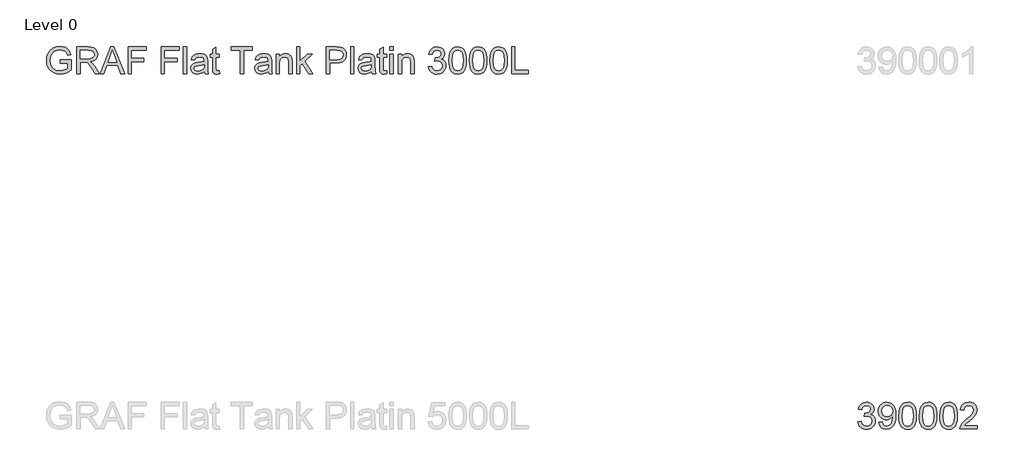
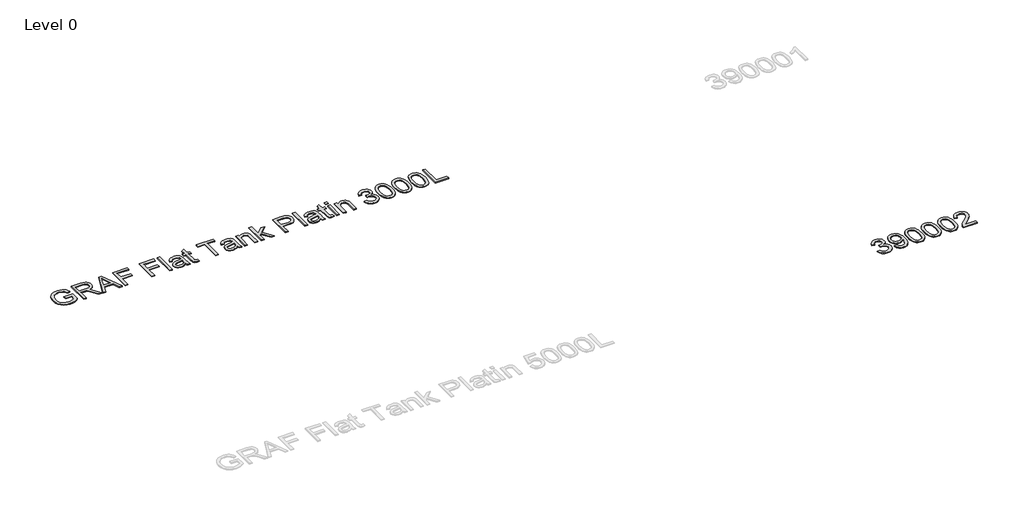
# One storey, part 11 of 14: 2 proxies.
"""IFC4 building model written with IfcOpenShell, lengths in millimetres."""

from ifc_helpers import new_model, si_unit, origin, origin_with_axes, place, context, project, spatial, polyline, outline, extrude, element, save

model = new_model("IFC4")

# Units and contexts
model_context = context("Model", 3, world=origin())
ifc_project = project(units=[si_unit("LENGTHUNIT", "METRE", prefix="MILLI")], contexts=[model_context])

# Site, building, storey
site = spatial("IfcSite", under=ifc_project)
building = spatial("IfcBuilding", under=site)
storey = spatial("IfcBuildingStorey", under=building, Name="Level 0", Elevation=0.0)

# Proxies
placement = place(None, origin())
element("IfcBuildingElementProxy", 1, Name="300mm Arial", ObjectType="300mm Arial", at=placement, inside=storey, context=model_context, shape_type="SweptSolid", body=[
    extrude(outline(polyline([(-15240.9940387, 5416.7454403), (-15240.9940387, 5454.4165566), (-15118.5629107, 5454.4165566), (-15118.5629107, 5341.7710897), (-15148.3153671, 5321.0777274), (-15179.0059225, 5306.2336889), (-15210.5610007, 5297.2941564), (-15242.9070251, 5294.3143123), (-15285.1674693, 5299.050793), (-15323.3628175, 5313.260235), (-15355.0926395, 5336.4459978), (-15377.9565055, 5368.1114405), (-15391.7796715, 5406.0952565), (-15396.3873935, 5448.2361391), (-15391.7980656, 5490.6805243), (-15378.0300819, 5530.1634594), (-15355.6536596, 5563.282036), (-15325.2390156, 5586.6333457), (-15288.1932987, 5600.4841028), (-15245.9236575, 5605.1010218), (-15214.8928112, 5602.4246803), (-15186.9889618, 5594.3956557), (-15163.4904994, 5581.5933623), (-15145.6758138, 5564.5972141), (-15132.4964413, 5542.5886738), (-15122.9039183, 5514.7492038), (-15157.6319786, 5504.9635427), (-15165.3850917, 5524.8199734), (-15174.8120678, 5539.8019677), (-15187.2832674, 5551.0959449), (-15204.169051, 5559.8883246), (-15224.3013932, 5565.5445103), (-15246.5122687, 5567.4299055), (-15272.5123287, 5565.3973575), (-15294.7415982, 5559.2997134), (-15313.1173039, 5549.9003284), (-15327.5566722, 5537.9625577), (-15346.9440533, 5508.9366683), (-15355.7732212, 5480.49939), (-15358.7162772, 5449.7812434), (-15355.175413, 5413.7563991), (-15344.5528204, 5384.1143073), (-15327.1703961, 5361.0665003), (-15303.3500369, 5344.8245102), (-15275.4737787, 5335.195199), (-15245.9236575, 5331.9854286), (-15219.831627, 5334.4042527), (-15194.3833899, 5341.6607251), (-15172.2828791, 5351.6579183), (-15156.234027, 5362.298905), (-15156.234027, 5416.7454403), (-15240.9940387, 5416.7454403)])), origin_with_axes(), (0.0, 0.0, 1.0), 10.0),
    extrude(outline(polyline([(-15057.3473467, 5299.0232018), (-15057.3473467, 5600.3921323), (-14927.4850024, 5600.3921323), (-14892.5821982, 5598.3595842), (-14867.1891434, 5592.2619402), (-14848.6294968, 5581.0047511), (-14834.2269167, 5563.4935682), (-14824.9838815, 5541.7793334), (-14821.9028698, 5517.912989), (-14827.0072325, 5488.2249119), (-14842.3203206, 5463.6136065), (-14853.9200997, 5453.5842236), (-14868.3019865, 5445.5689946), (-14905.4120827, 5435.5809984), (-14884.0013506, 5419.467767), (-14853.467145, 5380.6930048), (-14803.2144645, 5299.0232018), (-14846.9924219, 5299.0232018), (-14886.2086426, 5361.4895646), (-14914.5355562, 5402.8395009), (-14934.4379722, 5422.3740348), (-14952.3538253, 5429.5477337), (-14974.2060158, 5430.8721089), (-15019.6762304, 5430.8721089), (-15019.6762304, 5299.0232018), (-15057.3473467, 5299.0232018)]), holes=[polyline([(-15019.6762304, 5468.5432252), (-14935.3576771, 5468.5432252), (-14911.1418448, 5469.8767974), (-14892.3522719, 5473.8775141), (-14878.2072092, 5480.8120897), (-14867.9249074, 5490.9472387), (-14861.6617165, 5503.2069062), (-14859.5739861, 5516.5150374), (-14863.5563087, 5534.890743), (-14875.5032765, 5549.6979933), (-14896.058683, 5559.4652603), (-14925.8663217, 5562.721016), (-15019.6762304, 5562.721016), (-15019.6762304, 5468.5432252)])]), origin_with_axes(), (0.0, 0.0, 1.0), 10.0),
    extrude(outline(polyline([(-14791.0743586, 5299.0232018), (-14670.7769462, 5600.3921323), (-14638.6976362, 5600.3921323), (-14518.4002238, 5299.0232018), (-14558.2050557, 5299.0232018), (-14592.7123868, 5393.2009926), (-14716.835772, 5393.2009926), (-14751.2695268, 5299.0232018), (-14791.0743586, 5299.0232018)]), holes=[polyline([(-14703.003409, 5430.8721089), (-14606.4711735, 5430.8721089), (-14633.6208647, 5504.9635427), (-14654.7372912, 5562.721016), (-14673.499273, 5511.4382658), (-14703.003409, 5430.8721089)])]), origin_with_axes(), (0.0, 0.0, 1.0), 10.0),
    extrude(outline(polyline([(-14478.1539335, 5299.0232018), (-14478.1539335, 5600.3921323), (-14275.6716834, 5600.3921323), (-14275.6716834, 5562.721016), (-14440.4828172, 5562.721016), (-14440.4828172, 5473.2521147), (-14299.2161311, 5473.2521147), (-14299.2161311, 5435.5809984), (-14440.4828172, 5435.5809984), (-14440.4828172, 5299.0232018), (-14478.1539335, 5299.0232018)])), origin_with_axes(), (0.0, 0.0, 1.0), 10.0),
    extrude(outline(polyline([(-14106.15166, 5299.0232018), (-14106.15166, 5600.3921323), (-13903.6694099, 5600.3921323), (-13903.6694099, 5562.721016), (-14068.4805437, 5562.721016), (-14068.4805437, 5473.2521147), (-13927.2138576, 5473.2521147), (-13927.2138576, 5435.5809984), (-14068.4805437, 5435.5809984), (-14068.4805437, 5299.0232018), (-14106.15166, 5299.0232018)])), origin_with_axes(), (0.0, 0.0, 1.0), 10.0),
    extrude(outline(polyline([(-13856.5805145, 5299.0232018), (-13856.5805145, 5600.3921323), (-13818.9093982, 5600.3921323), (-13818.9093982, 5299.0232018), (-13856.5805145, 5299.0232018)])), origin_with_axes(), (0.0, 0.0, 1.0), 10.0),
    extrude(outline(polyline([(-13621.1360376, 5327.2765391), (-13639.1346642, 5311.8438894), (-13657.6667197, 5301.7455286), (-13677.1552684, 5296.1721164), (-13698.0233746, 5294.3143123), (-13729.5048763, 5298.7840785), (-13752.7274272, 5312.1933772), (-13767.0472339, 5332.5556457), (-13771.8205028, 5357.8843211), (-13770.017881, 5373.5009117), (-13764.6100157, 5387.6827627), (-13756.2682915, 5399.8228685), (-13745.6640929, 5409.314224), (-13719.2869539, 5421.675059), (-13686.6926091, 5427.3404417), (-13648.1753642, 5433.3001301), (-13621.3567668, 5440.289888), (-13621.1360376, 5448.6775975), (-13623.7296056, 5465.4898046), (-13631.5103098, 5476.4894763), (-13648.9111282, 5484.6564566), (-13673.1545517, 5487.3787834), (-13695.5953534, 5485.5669645), (-13711.2671264, 5480.131508), (-13721.9540984, 5470.0791325), (-13729.440497, 5454.4165566), (-13767.1116133, 5459.1254461), (-13760.5725108, 5479.7268379), (-13750.8144409, 5495.9136456), (-13736.9268956, 5508.2928748), (-13717.9993669, 5517.4715306), (-13694.8503924, 5523.1553074), (-13668.2985094, 5525.0498997), (-13642.8318782, 5523.3760366), (-13622.6443538, 5518.3544473), (-13607.4232362, 5510.8036694), (-13596.8558259, 5501.5422402), (-13589.8476739, 5490.0919131), (-13585.3043312, 5475.9744415), (-13583.4649213, 5443.0122147), (-13583.4649213, 5396.1440485), (-13581.5519349, 5330.6978416), (-13574.0471422, 5299.0232018), (-13611.7182585, 5299.0232018), (-13621.1360376, 5327.2765391)]), holes=[polyline([(-13621.1360376, 5402.6187717), (-13681.9101432, 5391.067277), (-13714.320547, 5384.9604359), (-13728.9990386, 5375.027622), (-13734.1493865, 5360.5330714), (-13731.3442863, 5349.3310647), (-13722.9289856, 5340.1524089), (-13709.0874256, 5334.0271737), (-13690.0035471, 5331.9854286), (-13669.7700373, 5334.2387058), (-13651.8909724, 5340.9985375), (-13637.3964218, 5350.9589425), (-13627.3164551, 5362.8139398), (-13622.8466889, 5375.027622), (-13621.3567668, 5391.9501938), (-13621.1360376, 5402.6187717)])]), origin_with_axes(), (0.0, 0.0, 1.0), 10.0),
    extrude(outline(polyline([(-13451.6160142, 5330.4403242), (-13446.9071247, 5297.9195558), (-13475.0868855, 5294.3143123), (-13493.1682856, 5295.8778108), (-13506.6511607, 5300.5683062), (-13516.1793043, 5307.7971874), (-13522.3965101, 5316.9758432), (-13525.8178126, 5332.7395867), (-13526.9582468, 5359.723731), (-13526.9582468, 5482.6698938), (-13555.211584, 5482.6698938), (-13555.211584, 5520.3410101), (-13526.9582468, 5520.3410101), (-13526.9582468, 5574.1253578), (-13489.2871305, 5596.2718539), (-13489.2871305, 5520.3410101), (-13451.6160142, 5520.3410101), (-13451.6160142, 5482.6698938), (-13489.2871305, 5482.6698938), (-13489.2871305, 5360.827377), (-13487.3005677, 5341.4032077), (-13480.8626328, 5334.5238144), (-13468.0235512, 5331.9854286), (-13451.6160142, 5330.4403242)])), origin_with_axes(), (0.0, 0.0, 1.0), 10.0),
    extrude(outline(polyline([(-13216.1715373, 5299.0232018), (-13216.1715373, 5562.721016), (-13315.0582176, 5562.721016), (-13315.0582176, 5600.3921323), (-13079.6137407, 5600.3921323), (-13079.6137407, 5562.721016), (-13178.500421, 5562.721016), (-13178.500421, 5299.0232018), (-13216.1715373, 5299.0232018)])), origin_with_axes(), (0.0, 0.0, 1.0), 10.0),
    extrude(outline(polyline([(-12900.6759382, 5327.2765391), (-12918.6745648, 5311.8438894), (-12937.2066203, 5301.7455286), (-12956.695169, 5296.1721164), (-12977.5632752, 5294.3143123), (-13009.0447769, 5298.7840785), (-13032.2673279, 5312.1933772), (-13046.5871346, 5332.5556457), (-13051.3604034, 5357.8843211), (-13049.5577817, 5373.5009117), (-13044.1499163, 5387.6827627), (-13035.8081921, 5399.8228685), (-13025.2039936, 5409.314224), (-12998.8268545, 5421.675059), (-12966.2325098, 5427.3404417), (-12927.7152649, 5433.3001301), (-12900.8966674, 5440.289888), (-12900.6759382, 5448.6775975), (-12903.2695063, 5465.4898046), (-12911.0502105, 5476.4894763), (-12928.4510289, 5484.6564566), (-12952.6944523, 5487.3787834), (-12975.135254, 5485.5669645), (-12990.807027, 5480.131508), (-13001.493999, 5470.0791325), (-13008.9803976, 5454.4165566), (-13046.6515139, 5459.1254461), (-13040.1124114, 5479.7268379), (-13030.3543415, 5495.9136456), (-13016.4667962, 5508.2928748), (-12997.5392675, 5517.4715306), (-12974.390293, 5523.1553074), (-12947.83841, 5525.0498997), (-12922.3717789, 5523.3760366), (-12902.1842544, 5518.3544473), (-12886.9631368, 5510.8036694), (-12876.3957265, 5501.5422402), (-12869.3875745, 5490.0919131), (-12864.8442319, 5475.9744415), (-12863.0048219, 5443.0122147), (-12863.0048219, 5396.1440485), (-12861.0918355, 5330.6978416), (-12853.5870428, 5299.0232018), (-12891.2581591, 5299.0232018), (-12900.6759382, 5327.2765391)]), holes=[polyline([(-12900.6759382, 5402.6187717), (-12961.4500438, 5391.067277), (-12993.8604476, 5384.9604359), (-13008.5389392, 5375.027622), (-13013.6892871, 5360.5330714), (-13010.8841869, 5349.3310647), (-13002.4688863, 5340.1524089), (-12988.6273262, 5334.0271737), (-12969.5434477, 5331.9854286), (-12949.309938, 5334.2387058), (-12931.430873, 5340.9985375), (-12916.9363224, 5350.9589425), (-12906.8563557, 5362.8139398), (-12902.3865895, 5375.027622), (-12900.8966674, 5391.9501938), (-12900.6759382, 5402.6187717)])]), origin_with_axes(), (0.0, 0.0, 1.0), 10.0),
    extrude(outline(polyline([(-12811.207037, 5299.0232018), (-12811.207037, 5520.3410101), (-12773.5359207, 5520.3410101), (-12773.5359207, 5489.4389225), (-12760.4485187, 5505.018725), (-12744.7307605, 5516.1471554), (-12726.382646, 5522.8242136), (-12705.4041752, 5525.0498997), (-12686.8353315, 5523.2564749), (-12669.8299862, 5517.8762008), (-12655.6481353, 5509.5804618), (-12645.5497746, 5499.0406426), (-12634.2557973, 5471.3391284), (-12632.2692345, 5434.9188108), (-12632.2692345, 5299.0232018), (-12669.9403508, 5299.0232018), (-12669.9403508, 5429.8420393), (-12674.2813584, 5463.1721481), (-12680.287032, 5473.0957649), (-12689.6220376, 5480.7936956), (-12701.5873995, 5485.7325114), (-12715.4841418, 5487.3787834), (-12737.5478645, 5483.6815693), (-12756.3558315, 5472.5899271), (-12763.8721205, 5463.5354315), (-12769.2408984, 5451.1608009), (-12773.5359207, 5416.4511347), (-12773.5359207, 5299.0232018), (-12811.207037, 5299.0232018)])), origin_with_axes(), (0.0, 0.0, 1.0), 10.0),
    extrude(outline(polyline([(-12580.4714496, 5299.0232018), (-12580.4714496, 5600.3921323), (-12542.8003333, 5600.3921323), (-12542.8003333, 5438.450478), (-12458.3346272, 5520.3410101), (-12406.2425367, 5520.3410101), (-12491.7383124, 5437.4204084), (-12401.5336472, 5299.0232018), (-12445.5323338, 5299.0232018), (-12518.7408508, 5411.2272104), (-12542.8003333, 5387.9034919), (-12542.8003333, 5299.0232018), (-12580.4714496, 5299.0232018)])), origin_with_axes(), (0.0, 0.0, 1.0), 10.0),
    extrude(outline(polyline([(-12246.1402924, 5299.0232018), (-12246.1402924, 5600.3921323), (-12134.4513187, 5600.3921323), (-12089.4225625, 5597.5226527), (-12069.3454026, 5592.1607726), (-12052.8183039, 5583.4327723), (-12039.5101728, 5570.9431786), (-12029.0899152, 5554.2965183), (-12022.3576747, 5534.6608168), (-12020.1135946, 5513.2040994), (-12021.6288085, 5494.7042336), (-12026.1744504, 5477.6850928), (-12033.7505203, 5462.146677), (-12044.357018, 5448.0889863), (-12058.9182473, 5436.4363241), (-12078.3585115, 5428.1129939), (-12102.6778106, 5423.1189958), (-12131.8761447, 5421.4543298), (-12208.4691761, 5421.4543298), (-12208.4691761, 5299.0232018), (-12246.1402924, 5299.0232018)]), holes=[polyline([(-12208.4691761, 5459.1254461), (-12129.6688527, 5459.1254461), (-12096.2651676, 5462.5835369), (-12074.1922479, 5472.9578091), (-12061.8865951, 5489.6044694), (-12057.7847109, 5511.8797242), (-12060.203535, 5528.802296), (-12067.4600073, 5543.0761174), (-12078.652817, 5553.8182717), (-12092.8806532, 5560.145842), (-12130.5517695, 5562.721016), (-12208.4691761, 5562.721016), (-12208.4691761, 5459.1254461)])]), origin_with_axes(), (0.0, 0.0, 1.0), 10.0),
    extrude(outline(polyline([(-11973.0246992, 5299.0232018), (-11973.0246992, 5600.3921323), (-11935.3535829, 5600.3921323), (-11935.3535829, 5299.0232018), (-11973.0246992, 5299.0232018)])), origin_with_axes(), (0.0, 0.0, 1.0), 10.0),
    extrude(outline(polyline([(-11737.5802223, 5327.2765391), (-11755.5788489, 5311.8438894), (-11774.1109044, 5301.7455286), (-11793.5994531, 5296.1721164), (-11814.4675593, 5294.3143123), (-11845.949061, 5298.7840785), (-11869.1716119, 5312.1933772), (-11883.4914186, 5332.5556457), (-11888.2646875, 5357.8843211), (-11886.4620657, 5373.5009117), (-11881.0542004, 5387.6827627), (-11872.7124761, 5399.8228685), (-11862.1082776, 5409.314224), (-11835.7311386, 5421.675059), (-11803.1367938, 5427.3404417), (-11764.6195489, 5433.3001301), (-11737.8009515, 5440.289888), (-11737.5802223, 5448.6775975), (-11740.1737903, 5465.4898046), (-11747.9544945, 5476.4894763), (-11765.3553129, 5484.6564566), (-11789.5987364, 5487.3787834), (-11812.0395381, 5485.5669645), (-11827.7113111, 5480.131508), (-11838.398283, 5470.0791325), (-11845.8846816, 5454.4165566), (-11883.555798, 5459.1254461), (-11877.0166955, 5479.7268379), (-11867.2586256, 5495.9136456), (-11853.3710803, 5508.2928748), (-11834.4435516, 5517.4715306), (-11811.2945771, 5523.1553074), (-11784.742694, 5525.0498997), (-11759.2760629, 5523.3760366), (-11739.0885384, 5518.3544473), (-11723.8674209, 5510.8036694), (-11713.3000106, 5501.5422402), (-11706.2918586, 5490.0919131), (-11701.7485159, 5475.9744415), (-11699.909106, 5443.0122147), (-11699.909106, 5396.1440485), (-11697.9961196, 5330.6978416), (-11690.4913269, 5299.0232018), (-11728.1624432, 5299.0232018), (-11737.5802223, 5327.2765391)]), holes=[polyline([(-11737.5802223, 5402.6187717), (-11798.3543279, 5391.067277), (-11830.7647316, 5384.9604359), (-11845.4432233, 5375.027622), (-11850.5935712, 5360.5330714), (-11847.788471, 5349.3310647), (-11839.3731703, 5340.1524089), (-11825.5316103, 5334.0271737), (-11806.4477318, 5331.9854286), (-11786.214222, 5334.2387058), (-11768.3351571, 5340.9985375), (-11753.8406065, 5350.9589425), (-11743.7606398, 5362.8139398), (-11739.2908735, 5375.027622), (-11737.8009515, 5391.9501938), (-11737.5802223, 5402.6187717)])]), origin_with_axes(), (0.0, 0.0, 1.0), 10.0),
    extrude(outline(polyline([(-11568.0601989, 5330.4403242), (-11563.3513094, 5297.9195558), (-11591.5310702, 5294.3143123), (-11609.6124702, 5295.8778108), (-11623.0953454, 5300.5683062), (-11632.623489, 5307.7971874), (-11638.8406948, 5316.9758432), (-11642.2619973, 5332.7395867), (-11643.4024315, 5359.723731), (-11643.4024315, 5482.6698938), (-11671.6557687, 5482.6698938), (-11671.6557687, 5520.3410101), (-11643.4024315, 5520.3410101), (-11643.4024315, 5574.1253578), (-11605.7313152, 5596.2718539), (-11605.7313152, 5520.3410101), (-11568.0601989, 5520.3410101), (-11568.0601989, 5482.6698938), (-11605.7313152, 5482.6698938), (-11605.7313152, 5360.827377), (-11603.7447524, 5341.4032077), (-11597.3068175, 5334.5238144), (-11584.4677359, 5331.9854286), (-11568.0601989, 5330.4403242)])), origin_with_axes(), (0.0, 0.0, 1.0), 10.0),
    extrude(outline(polyline([(-11530.3890826, 5562.721016), (-11530.3890826, 5600.3921323), (-11492.7179663, 5600.3921323), (-11492.7179663, 5562.721016), (-11530.3890826, 5562.721016)])), origin_with_axes(), (0.0, 0.0, 1.0), 10.0),
    extrude(outline(polyline([(-11530.3890826, 5299.0232018), (-11530.3890826, 5520.3410101), (-11492.7179663, 5520.3410101), (-11492.7179663, 5299.0232018), (-11530.3890826, 5299.0232018)])), origin_with_axes(), (0.0, 0.0, 1.0), 10.0),
    extrude(outline(polyline([(-11436.2112918, 5299.0232018), (-11436.2112918, 5520.3410101), (-11398.5401755, 5520.3410101), (-11398.5401755, 5489.4389225), (-11385.4527735, 5505.018725), (-11369.7350153, 5516.1471554), (-11351.3869008, 5522.8242136), (-11330.40843, 5525.0498997), (-11311.8395863, 5523.2564749), (-11294.8342411, 5517.8762008), (-11280.6523902, 5509.5804618), (-11270.5540294, 5499.0406426), (-11259.2600521, 5471.3391284), (-11257.2734894, 5434.9188108), (-11257.2734894, 5299.0232018), (-11294.9446057, 5299.0232018), (-11294.9446057, 5429.8420393), (-11299.2856132, 5463.1721481), (-11305.2912868, 5473.0957649), (-11314.6262924, 5480.7936956), (-11326.5916543, 5485.7325114), (-11340.4883967, 5487.3787834), (-11362.5521193, 5483.6815693), (-11381.3600863, 5472.5899271), (-11388.8763754, 5463.5354315), (-11394.2451532, 5451.1608009), (-11398.5401755, 5416.4511347), (-11398.5401755, 5299.0232018), (-11436.2112918, 5299.0232018)])), origin_with_axes(), (0.0, 0.0, 1.0), 10.0),
    extrude(outline(polyline([(-11097.1712451, 5379.074324), (-11059.5001288, 5383.7832135), (-11051.066434, 5360.1100071), (-11038.714796, 5344.1255344), (-11021.8382095, 5335.020455), (-10999.8296691, 5331.9854286), (-10974.0043531, 5336.1608892), (-10954.0651489, 5348.6872712), (-10941.3180378, 5367.3756765), (-10937.0690008, 5390.0372074), (-10941.2812496, 5411.5491071), (-10953.9179961, 5428.9959107), (-10973.0478599, 5440.5566024), (-10996.7394604, 5444.4101663), (-11023.1533876, 5440.289888), (-11018.9595329, 5477.9610043), (-11012.9262682, 5477.5195459), (-10990.3567078, 5480.2234785), (-10970.1783803, 5488.3352765), (-10955.9413471, 5502.057275), (-10951.1956694, 5521.5918089), (-10954.635366, 5537.8613901), (-10964.954456, 5551.0591567), (-10980.6998054, 5559.8055512), (-11000.4182803, 5562.721016), (-11020.1735435, 5559.77796), (-11036.3235631, 5550.9487921), (-11048.114181, 5536.2335123), (-11054.7912392, 5515.6321206), (-11092.4623555, 5520.3410101), (-11081.3707134, 5554.1677596), (-11061.6338443, 5579.4228585), (-11034.6313059, 5595.1498138), (-11001.7426555, 5600.3921323), (-10978.0602521, 5597.8077613), (-10956.3092291, 5590.0546482), (-10937.9703117, 5577.8225719), (-10924.5242247, 5561.801311), (-10916.274471, 5543.3428319), (-10913.5245531, 5523.7991009), (-10916.1365152, 5505.5889421), (-10923.9724017, 5489.0710405), (-10936.921848, 5474.9995542), (-10954.8744893, 5464.1286413), (-10931.2932534, 5454.6004976), (-10913.8188587, 5438.3769016), (-10903.003128, 5416.3407701), (-10899.3978845, 5389.3750198), (-10901.2005062, 5370.2635502), (-10906.6083716, 5352.6603967), (-10915.6214804, 5336.5655594), (-10928.2398329, 5321.9790383), (-10943.6127018, 5309.8757207), (-10960.88936, 5301.2304938), (-10980.0698075, 5296.0433577), (-11001.1540443, 5294.3143123), (-11020.2103317, 5295.7904388), (-11037.5743618, 5300.2188183), (-11053.2461348, 5307.5994508), (-11067.2256507, 5317.9323364), (-11078.9472907, 5330.6104696), (-11087.8454365, 5345.0268453), (-11093.9200879, 5361.1814634), (-11097.1712451, 5379.074324)])), origin_with_axes(), (0.0, 0.0, 1.0), 10.0),
    extrude(outline(polyline([(-10866.4356577, 5447.2796459), (-10863.6673457, 5495.5181725), (-10855.3624096, 5533.9894321), (-10841.603623, 5563.282036), (-10822.4737593, 5583.9845953), (-10797.8348626, 5596.290248), (-10767.5489774, 5600.3921323), (-10744.3356235, 5597.9641111), (-10723.5502908, 5590.6800476), (-10706.1678665, 5578.8250503), (-10693.163238, 5562.6842278), (-10683.3407887, 5542.3955357), (-10675.5049022, 5518.0969299), (-10670.3729484, 5487.2408276), (-10668.6622971, 5447.2796459), (-10671.4030179, 5399.3170308), (-10679.6251805, 5360.9377416), (-10693.3011937, 5331.6175466), (-10712.4034663, 5310.8322139), (-10737.0975452, 5298.4437877), (-10767.5489774, 5294.3143123), (-10788.2975219, 5296.107737), (-10806.6916217, 5301.4880112), (-10822.7312767, 5310.4551348), (-10836.4164869, 5323.0091079), (-10849.5498741, 5345.7028285), (-10858.930865, 5373.9791583), (-10864.5594595, 5407.8380975), (-10866.4356577, 5447.2796459)]), holes=[polyline([(-10828.7645414, 5447.3532223), (-10824.3499574, 5388.0966299), (-10818.8317275, 5367.8286312), (-10811.1062056, 5353.8008309), (-10791.3877307, 5337.4392792), (-10767.5489774, 5331.9854286), (-10743.7102241, 5337.4576733), (-10723.9917492, 5353.8744073), (-10716.2662273, 5367.9252003), (-10710.7479973, 5388.1886004), (-10706.3334134, 5447.3532223), (-10710.6008445, 5505.2762424), (-10715.9351335, 5525.4775625), (-10723.403138, 5539.8387559), (-10743.0848247, 5557.0004509), (-10767.9904358, 5562.721016), (-10791.5716717, 5557.6810326), (-10810.5175944, 5542.5610826), (-10818.5006337, 5526.9260978), (-10824.2028046, 5505.8464595), (-10828.7645414, 5447.3532223)])]), origin_with_axes(), (0.0, 0.0, 1.0), 10.0),
    extrude(outline(polyline([(-10635.7000703, 5447.2796459), (-10632.9317583, 5495.5181725), (-10624.6268223, 5533.9894321), (-10610.8680356, 5563.282036), (-10591.7381719, 5583.9845953), (-10567.0992753, 5596.290248), (-10536.81339, 5600.3921323), (-10513.6000361, 5597.9641111), (-10492.8147034, 5590.6800476), (-10475.4322791, 5578.8250503), (-10462.4276506, 5562.6842278), (-10452.6052013, 5542.3955357), (-10444.7693148, 5518.0969299), (-10439.637361, 5487.2408276), (-10437.9267097, 5447.2796459), (-10440.6674306, 5399.3170308), (-10448.8895932, 5360.9377416), (-10462.5656063, 5331.6175466), (-10481.6678789, 5310.8322139), (-10506.3619579, 5298.4437877), (-10536.81339, 5294.3143123), (-10557.5619345, 5296.107737), (-10575.9560343, 5301.4880112), (-10591.9956893, 5310.4551348), (-10605.6808995, 5323.0091079), (-10618.8142867, 5345.7028285), (-10628.1952776, 5373.9791583), (-10633.8238721, 5407.8380975), (-10635.7000703, 5447.2796459)]), holes=[polyline([(-10598.028954, 5447.3532223), (-10593.6143701, 5388.0966299), (-10588.0961401, 5367.8286312), (-10580.3706182, 5353.8008309), (-10560.6521433, 5337.4392792), (-10536.81339, 5331.9854286), (-10512.9746367, 5337.4576733), (-10493.2561618, 5353.8744073), (-10485.5306399, 5367.9252003), (-10480.01241, 5388.1886004), (-10475.597826, 5447.3532223), (-10479.8652572, 5505.2762424), (-10485.1995461, 5525.4775625), (-10492.6675506, 5539.8387559), (-10512.3492373, 5557.0004509), (-10537.2548484, 5562.721016), (-10560.8360843, 5557.6810326), (-10579.782007, 5542.5610826), (-10587.7650463, 5526.9260978), (-10593.4672173, 5505.8464595), (-10598.028954, 5447.3532223)])]), origin_with_axes(), (0.0, 0.0, 1.0), 10.0),
    extrude(outline(polyline([(-10404.9644829, 5447.2796459), (-10402.1961709, 5495.5181725), (-10393.8912349, 5533.9894321), (-10380.1324483, 5563.282036), (-10361.0025845, 5583.9845953), (-10336.3636879, 5596.290248), (-10306.0778026, 5600.3921323), (-10282.8644487, 5597.9641111), (-10262.079116, 5590.6800476), (-10244.6966917, 5578.8250503), (-10231.6920632, 5562.6842278), (-10221.8696139, 5542.3955357), (-10214.0337274, 5518.0969299), (-10208.9017736, 5487.2408276), (-10207.1911223, 5447.2796459), (-10209.9318432, 5399.3170308), (-10218.1540058, 5360.9377416), (-10231.830019, 5331.6175466), (-10250.9322916, 5310.8322139), (-10275.6263705, 5298.4437877), (-10306.0778026, 5294.3143123), (-10326.8263472, 5296.107737), (-10345.2204469, 5301.4880112), (-10361.2601019, 5310.4551348), (-10374.9453121, 5323.0091079), (-10388.0786994, 5345.7028285), (-10397.4596902, 5373.9791583), (-10403.0882848, 5407.8380975), (-10404.9644829, 5447.2796459)]), holes=[polyline([(-10367.2933666, 5447.3532223), (-10362.8787827, 5388.0966299), (-10357.3605528, 5367.8286312), (-10349.6350309, 5353.8008309), (-10329.9165559, 5337.4392792), (-10306.0778026, 5331.9854286), (-10282.2390493, 5337.4576733), (-10262.5205744, 5353.8744073), (-10254.7950525, 5367.9252003), (-10249.2768226, 5388.1886004), (-10244.8622386, 5447.3532223), (-10249.1296698, 5505.2762424), (-10254.4639587, 5525.4775625), (-10261.9319632, 5539.8387559), (-10281.61365, 5557.0004509), (-10306.519261, 5562.721016), (-10330.1004969, 5557.6810326), (-10349.0464197, 5542.5610826), (-10357.029459, 5526.9260978), (-10362.7316299, 5505.8464595), (-10367.2933666, 5447.3532223)])]), origin_with_axes(), (0.0, 0.0, 1.0), 10.0),
    extrude(outline(polyline([(-10160.102227, 5299.0232018), (-10160.102227, 5600.3921323), (-10122.4311106, 5600.3921323), (-10122.4311106, 5336.6943181), (-9971.7466454, 5336.6943181), (-9971.7466454, 5299.0232018), (-10160.102227, 5299.0232018)])), origin_with_axes(), (0.0, 0.0, 1.0), 10.0),
])
element("IfcBuildingElementProxy", 2, Name="300mm Arial", ObjectType="300mm Arial", at=placement, inside=storey, context=model_context, shape_type="SweptSolid", body=[
    extrude(outline(polyline([(-6261.2846424, 1379.074324), (-6223.6135261, 1383.7832135), (-6215.1798313, 1360.1100071), (-6202.8281934, 1344.1255344), (-6185.9516068, 1335.020455), (-6163.9430665, 1331.9854286), (-6138.1177504, 1336.1608892), (-6118.1785463, 1348.6872712), (-6105.4314351, 1367.3756765), (-6101.1823981, 1390.0372074), (-6105.3946469, 1411.5491071), (-6118.0313935, 1428.9959107), (-6137.1612572, 1440.5566024), (-6160.8528577, 1444.4101663), (-6187.266785, 1440.289888), (-6183.0729302, 1477.9610043), (-6177.0396655, 1477.5195459), (-6154.4701051, 1480.2234785), (-6134.2917777, 1488.3352765), (-6120.0547444, 1502.057275), (-6115.3090667, 1521.5918089), (-6118.7487634, 1537.8613901), (-6129.0678533, 1551.0591567), (-6144.8132027, 1559.8055512), (-6164.5316777, 1562.721016), (-6184.2869408, 1559.77796), (-6200.4369604, 1550.9487921), (-6212.2275783, 1536.2335123), (-6218.9046365, 1515.6321206), (-6256.5757528, 1520.3410101), (-6245.4841107, 1554.1677596), (-6225.7472417, 1579.4228585), (-6198.7447032, 1595.1498138), (-6165.8560528, 1600.3921323), (-6142.1736494, 1597.8077613), (-6120.4226264, 1590.0546482), (-6102.083709, 1577.8225719), (-6088.637622, 1561.801311), (-6080.3878683, 1543.3428319), (-6077.6379504, 1523.7991009), (-6080.2499126, 1505.5889421), (-6088.0857991, 1489.0710405), (-6101.0352453, 1474.9995542), (-6118.9878867, 1464.1286413), (-6095.4066508, 1454.6004976), (-6077.932256, 1438.3769016), (-6067.1165253, 1416.3407701), (-6063.5112818, 1389.3750198), (-6065.3139036, 1370.2635502), (-6070.7217689, 1352.6603967), (-6079.7348778, 1336.5655594), (-6092.3532302, 1321.9790383), (-6107.7260991, 1309.8757207), (-6125.0027573, 1301.2304938), (-6144.1832048, 1296.0433577), (-6165.2674416, 1294.3143123), (-6184.323729, 1295.7904388), (-6201.6877592, 1300.2188183), (-6217.3595322, 1307.5994508), (-6231.339048, 1317.9323364), (-6243.0606881, 1330.6104696), (-6251.9588338, 1345.0268453), (-6258.0334853, 1361.1814634), (-6261.2846424, 1379.074324)])), origin_with_axes(), (0.0, 0.0, 1.0), 10.0),
    extrude(outline(polyline([(-6025.8401655, 1374.3654344), (-5988.1690492, 1379.074324), (-5981.7311143, 1357.691183), (-5971.2464774, 1343.132253), (-5956.972656, 1334.7721347), (-5939.1671674, 1331.9854286), (-5923.1918918, 1333.7788533), (-5908.66975, 1339.1591275), (-5896.6032206, 1347.5376399), (-5887.9947819, 1358.3257794), (-5875.670735, 1391.067277), (-5870.2260815, 1434.771658), (-5870.4468107, 1442.1292979), (-5883.4974245, 1426.2000076), (-5900.5763461, 1413.5816551), (-5920.4511709, 1405.3594925), (-5941.8894942, 1402.6187717), (-5959.784654, 1404.2926347), (-5976.2404755, 1409.314224), (-5991.2569587, 1417.6835394), (-6004.8341035, 1429.4005809), (-6016.0843948, 1443.8537448), (-6024.1203171, 1460.4314272), (-6028.9418705, 1479.1336281), (-6030.549055, 1499.9603476), (-6028.8636956, 1521.4814443), (-6023.8076174, 1540.7952491), (-6015.3808205, 1557.9017618), (-6003.5833048, 1572.8009826), (-5989.2474033, 1584.8721106), (-5973.205449, 1593.4943449), (-5955.457442, 1598.6676854), (-5936.0033823, 1600.3921323), (-5907.9063949, 1596.4557949), (-5882.3293992, 1584.6467829), (-5860.9370611, 1565.5537073), (-5845.3940468, 1539.7651795), (-5835.9302825, 1504.1174141), (-5832.7756944, 1455.4466262), (-5835.9210855, 1403.8419793), (-5845.3572586, 1363.954374), (-5861.0014405, 1333.9811884), (-5882.7708575, 1312.1198009), (-5909.7274107, 1298.7656844), (-5940.933001, 1294.3143123), (-5973.1410697, 1299.5658278), (-5998.837627, 1315.3203742), (-6016.8086625, 1340.5846702), (-6025.8401655, 1374.3654344)]), holes=[polyline([(-5870.4468107, 1500.8432644), (-5874.5119068, 1526.3742748), (-5886.7071949, 1546.0191734), (-5905.6347235, 1558.5455553), (-5929.8965411, 1562.721016), (-5955.0596696, 1558.2236586), (-5975.2196029, 1544.7315864), (-5988.4633548, 1524.0842094), (-5992.8779387, 1498.1209376), (-5988.7024781, 1474.8432044), (-5976.1760961, 1456.3663312), (-5956.5128035, 1444.3089988), (-5930.9266107, 1440.289888), (-5906.8579312, 1444.3089988), (-5887.4797471, 1456.3663312), (-5874.7050448, 1475.5237861), (-5870.4468107, 1500.8432644)])]), origin_with_axes(), (0.0, 0.0, 1.0), 10.0),
    extrude(outline(polyline([(-5799.8134676, 1447.2796459), (-5797.0451556, 1495.5181725), (-5788.7402196, 1533.9894321), (-5774.981433, 1563.282036), (-5755.8515692, 1583.9845953), (-5731.2126726, 1596.290248), (-5700.9267873, 1600.3921323), (-5677.7134334, 1597.9641111), (-5656.9281007, 1590.6800476), (-5639.5456764, 1578.8250503), (-5626.5410479, 1562.6842278), (-5616.7185986, 1542.3955357), (-5608.8827121, 1518.0969299), (-5603.7507583, 1487.2408276), (-5602.040107, 1447.2796459), (-5604.7808279, 1399.3170308), (-5613.0029905, 1360.9377416), (-5626.6790037, 1331.6175466), (-5645.7812763, 1310.8322139), (-5670.4753552, 1298.4437877), (-5700.9267873, 1294.3143123), (-5721.6753319, 1296.107737), (-5740.0694316, 1301.4880112), (-5756.1090866, 1310.4551348), (-5769.7942968, 1323.0091079), (-5782.9276841, 1345.7028285), (-5792.3086749, 1373.9791583), (-5797.9372695, 1407.8380975), (-5799.8134676, 1447.2796459)]), holes=[polyline([(-5762.1423513, 1447.3532223), (-5757.7277674, 1388.0966299), (-5752.2095375, 1367.8286312), (-5744.4840156, 1353.8008309), (-5724.7655406, 1337.4392792), (-5700.9267873, 1331.9854286), (-5677.088034, 1337.4576733), (-5657.3695591, 1353.8744073), (-5649.6440372, 1367.9252003), (-5644.1258073, 1388.1886004), (-5639.7112233, 1447.3532223), (-5643.9786545, 1505.2762424), (-5649.3129434, 1525.4775625), (-5656.7809479, 1539.8387559), (-5676.4626347, 1557.0004509), (-5701.3682457, 1562.721016), (-5724.9494816, 1557.6810326), (-5743.8954044, 1542.5610826), (-5751.8784437, 1526.9260978), (-5757.5806146, 1505.8464595), (-5762.1423513, 1447.3532223)])]), origin_with_axes(), (0.0, 0.0, 1.0), 10.0),
    extrude(outline(polyline([(-5569.0778803, 1447.2796459), (-5566.3095682, 1495.5181725), (-5558.0046322, 1533.9894321), (-5544.2458456, 1563.282036), (-5525.1159818, 1583.9845953), (-5500.4770852, 1596.290248), (-5470.1912, 1600.3921323), (-5446.9778461, 1597.9641111), (-5426.1925133, 1590.6800476), (-5408.8100891, 1578.8250503), (-5395.8054605, 1562.6842278), (-5385.9830113, 1542.3955357), (-5378.1471248, 1518.0969299), (-5373.0151709, 1487.2408276), (-5371.3045197, 1447.2796459), (-5374.0452405, 1399.3170308), (-5382.2674031, 1360.9377416), (-5395.9434163, 1331.6175466), (-5415.0456889, 1310.8322139), (-5439.7397678, 1298.4437877), (-5470.1912, 1294.3143123), (-5490.9397445, 1296.107737), (-5509.3338442, 1301.4880112), (-5525.3734992, 1310.4551348), (-5539.0587095, 1323.0091079), (-5552.1920967, 1345.7028285), (-5561.5730876, 1373.9791583), (-5567.2016821, 1407.8380975), (-5569.0778803, 1447.2796459)]), holes=[polyline([(-5531.406764, 1447.3532223), (-5526.99218, 1388.0966299), (-5521.4739501, 1367.8286312), (-5513.7484282, 1353.8008309), (-5494.0299532, 1337.4392792), (-5470.1912, 1331.9854286), (-5446.3524467, 1337.4576733), (-5426.6339717, 1353.8744073), (-5418.9084498, 1367.9252003), (-5413.3902199, 1388.1886004), (-5408.975636, 1447.3532223), (-5413.2430671, 1505.2762424), (-5418.577356, 1525.4775625), (-5426.0453605, 1539.8387559), (-5445.7270473, 1557.0004509), (-5470.6326584, 1562.721016), (-5494.2138942, 1557.6810326), (-5513.159817, 1542.5610826), (-5521.1428563, 1526.9260978), (-5526.8450272, 1505.8464595), (-5531.406764, 1447.3532223)])]), origin_with_axes(), (0.0, 0.0, 1.0), 10.0),
    extrude(outline(polyline([(-5338.3422929, 1447.2796459), (-5335.5739809, 1495.5181725), (-5327.2690448, 1533.9894321), (-5313.5102582, 1563.282036), (-5294.3803945, 1583.9845953), (-5269.7414978, 1596.290248), (-5239.4556126, 1600.3921323), (-5216.2422587, 1597.9641111), (-5195.456926, 1590.6800476), (-5178.0745017, 1578.8250503), (-5165.0698732, 1562.6842278), (-5155.2474239, 1542.3955357), (-5147.4115374, 1518.0969299), (-5142.2795836, 1487.2408276), (-5140.5689323, 1447.2796459), (-5143.3096531, 1399.3170308), (-5151.5318157, 1360.9377416), (-5165.2078289, 1331.6175466), (-5184.3101015, 1310.8322139), (-5209.0041804, 1298.4437877), (-5239.4556126, 1294.3143123), (-5260.2041571, 1296.107737), (-5278.5982569, 1301.4880112), (-5294.6379119, 1310.4551348), (-5308.3231221, 1323.0091079), (-5321.4565093, 1345.7028285), (-5330.8375002, 1373.9791583), (-5336.4660947, 1407.8380975), (-5338.3422929, 1447.2796459)]), holes=[polyline([(-5300.6711766, 1447.3532223), (-5296.2565926, 1388.0966299), (-5290.7383627, 1367.8286312), (-5283.0128408, 1353.8008309), (-5263.2943659, 1337.4392792), (-5239.4556126, 1331.9854286), (-5215.6168593, 1337.4576733), (-5195.8983844, 1353.8744073), (-5188.1728625, 1367.9252003), (-5182.6546325, 1388.1886004), (-5178.2400486, 1447.3532223), (-5182.5074797, 1505.2762424), (-5187.8417687, 1525.4775625), (-5195.3097732, 1539.8387559), (-5214.9914599, 1557.0004509), (-5239.897071, 1562.721016), (-5263.4783069, 1557.6810326), (-5282.4242296, 1542.5610826), (-5290.4072689, 1526.9260978), (-5296.1094398, 1505.8464595), (-5300.6711766, 1447.3532223)])]), origin_with_axes(), (0.0, 0.0, 1.0), 10.0),
    extrude(outline(polyline([(-4914.5422344, 1336.6943181), (-4914.5422344, 1299.0232018), (-5112.3155951, 1299.0232018), (-5108.2688931, 1324.9956707), (-5098.9798727, 1345.2935598), (-5085.386633, 1364.9844436), (-5065.7233404, 1385.5950323), (-5038.2241612, 1408.6520364), (-4997.5732008, 1444.7596542), (-4973.1826245, 1471.4127048), (-4960.9873363, 1493.0441661), (-4956.9222403, 1514.0870162), (-4960.7574101, 1532.9501655), (-4972.2629195, 1548.6311355), (-4989.9488464, 1559.1985459), (-5012.3252688, 1562.721016), (-5035.8237312, 1559.2813193), (-5054.0798752, 1548.9622293), (-5065.8612961, 1532.5730865), (-5069.9355892, 1510.923231), (-5107.6067055, 1515.6321206), (-5098.474035, 1552.0708322), (-5089.9276764, 1566.6067695), (-5078.7279689, 1578.6870946), (-5065.1324299, 1588.1830486), (-5049.3985768, 1594.9658728), (-5011.5159284, 1600.3921323), (-4991.3261046, 1598.8838161), (-4973.3573684, 1594.3588675), (-4957.6097198, 1586.8172866), (-4944.0831587, 1576.2590734), (-4933.2191435, 1563.465977), (-4925.4591326, 1549.2197467), (-4920.8031261, 1533.5203826), (-4919.251124, 1516.3678846), (-4920.9249871, 1498.3508639), (-4925.9465763, 1480.6465428), (-4934.8585176, 1462.6387192), (-4948.203437, 1443.7111905), (-4969.4762134, 1421.114039), (-5002.1717257, 1392.0973466), (-5045.5082247, 1355.8609701), (-5062.5043729, 1336.6943181), (-4914.5422344, 1336.6943181)])), origin_with_axes(), (0.0, 0.0, 1.0), 10.0),
])

save(model, "model.ifc")
